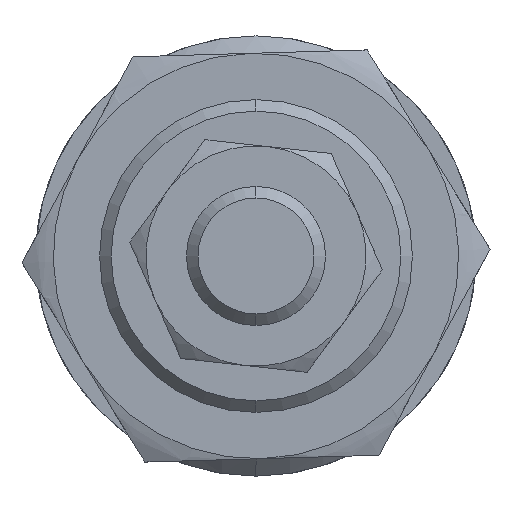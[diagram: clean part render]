
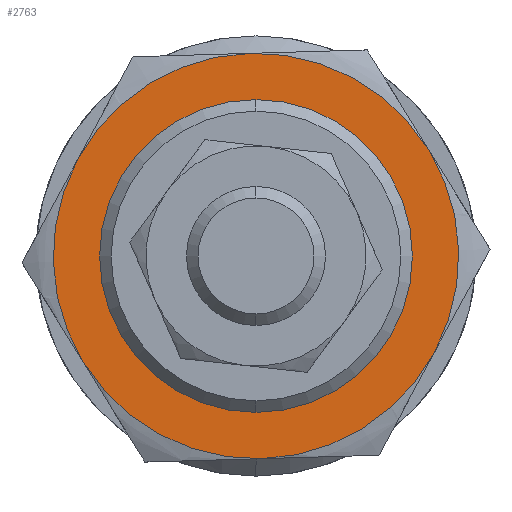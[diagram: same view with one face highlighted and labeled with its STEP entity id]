
A CAD part, left-side view. The second image highlights one B-rep face of the part: STEP entity #2763.
In plain terms, the highlighted planar face has unit normal (-1, 0, 0) as drawn and (0, 0, -1) by its records, which use the part's own axes.
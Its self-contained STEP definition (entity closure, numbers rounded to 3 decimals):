
#18 = EDGE_CURVE ( 'NONE', #146, #3362, #1792, .T. ) ;
#19 = CARTESIAN_POINT ( 'NONE',  ( 8.75, -15.155, -5. ) ) ;
#96 = ORIENTED_EDGE ( 'NONE', *, *, #2639, .F. ) ;
#99 = EDGE_LOOP ( 'NONE', ( #968, #428 ) ) ;
#127 = CIRCLE ( 'NONE', #1578, 17.5 ) ;
#139 = AXIS2_PLACEMENT_3D ( 'NONE', #2171, #854, #2798 ) ;
#146 = VERTEX_POINT ( 'NONE', #908 ) ;
#154 = VERTEX_POINT ( 'NONE', #2090 ) ;
#217 = DIRECTION ( 'NONE',  ( 1., 0., 0. ) ) ;
#291 = DIRECTION ( 'NONE',  ( 1., 0., 0. ) ) ;
#428 = ORIENTED_EDGE ( 'NONE', *, *, #2985, .T. ) ;
#555 = FACE_OUTER_BOUND ( 'NONE', #1367, .T. ) ;
#591 = DIRECTION ( 'NONE',  ( 0., 0., 1. ) ) ;
#852 = CARTESIAN_POINT ( 'NONE',  ( 0., 0., -5. ) ) ;
#854 = DIRECTION ( 'NONE',  ( 0., 0., 1. ) ) ;
#860 = CIRCLE ( 'NONE', #3890, 12.5 ) ;
#908 = CARTESIAN_POINT ( 'NONE',  ( 12.5, 0., -5. ) ) ;
#927 = DIRECTION ( 'NONE',  ( 0., 0., 1. ) ) ;
#933 = AXIS2_PLACEMENT_3D ( 'NONE', #3758, #2012, #217 ) ;
#963 = EDGE_CURVE ( 'NONE', #2978, #1176, #1855, .T. ) ;
#966 = AXIS2_PLACEMENT_3D ( 'NONE', #3493, #3986, #4494 ) ;
#968 = ORIENTED_EDGE ( 'NONE', *, *, #18, .T. ) ;
#983 = EDGE_CURVE ( 'NONE', #154, #2978, #127, .T. ) ;
#990 = CARTESIAN_POINT ( 'NONE',  ( 8.75, 15.155, -5. ) ) ;
#1176 = VERTEX_POINT ( 'NONE', #4684 ) ;
#1271 = DIRECTION ( 'NONE',  ( 1., 0., 0. ) ) ;
#1367 = EDGE_LOOP ( 'NONE', ( #3649, #96, #3230, #2852, #3667, #2040 ) ) ;
#1578 = AXIS2_PLACEMENT_3D ( 'NONE', #2457, #591, #4013 ) ;
#1629 = DIRECTION ( 'NONE',  ( 0., 0., 1. ) ) ;
#1716 = FACE_BOUND ( 'NONE', #99, .T. ) ;
#1786 = AXIS2_PLACEMENT_3D ( 'NONE', #2613, #3358, #1271 ) ;
#1792 = CIRCLE ( 'NONE', #933, 12.5 ) ;
#1827 = VERTEX_POINT ( 'NONE', #19 ) ;
#1855 = CIRCLE ( 'NONE', #1786, 17.5 ) ;
#1888 = EDGE_CURVE ( 'NONE', #2596, #1827, #4553, .T. ) ;
#2012 = DIRECTION ( 'NONE',  ( 0., 0., 1. ) ) ;
#2040 = ORIENTED_EDGE ( 'NONE', *, *, #963, .F. ) ;
#2090 = CARTESIAN_POINT ( 'NONE',  ( 17.5, 0., -5. ) ) ;
#2160 = CIRCLE ( 'NONE', #139, 17.5 ) ;
#2171 = CARTESIAN_POINT ( 'NONE',  ( 0., 0., -5. ) ) ;
#2252 = CIRCLE ( 'NONE', #2759, 17.5 ) ;
#2278 = DIRECTION ( 'NONE',  ( 0., 0., 1. ) ) ;
#2338 = DIRECTION ( 'NONE',  ( 1., 0., 0. ) ) ;
#2388 = EDGE_CURVE ( 'NONE', #3949, #2596, #2425, .T. ) ;
#2425 = CIRCLE ( 'NONE', #3755, 17.5 ) ;
#2457 = CARTESIAN_POINT ( 'NONE',  ( 0., 0., -5. ) ) ;
#2596 = VERTEX_POINT ( 'NONE', #4103 ) ;
#2613 = CARTESIAN_POINT ( 'NONE',  ( 0., 0., -5. ) ) ;
#2630 = CARTESIAN_POINT ( 'NONE',  ( -12.5, 0., -5. ) ) ;
#2639 = EDGE_CURVE ( 'NONE', #1827, #154, #2252, .T. ) ;
#2759 = AXIS2_PLACEMENT_3D ( 'NONE', #3704, #1629, #2338 ) ;
#2763 = ADVANCED_FACE ( 'NONE', ( #1716, #555 ), #3111, .F. ) ;
#2798 = DIRECTION ( 'NONE',  ( 1., 0., 0. ) ) ;
#2852 = ORIENTED_EDGE ( 'NONE', *, *, #2388, .F. ) ;
#2932 = EDGE_CURVE ( 'NONE', #1176, #3949, #2160, .T. ) ;
#2978 = VERTEX_POINT ( 'NONE', #990 ) ;
#2985 = EDGE_CURVE ( 'NONE', #3362, #146, #860, .T. ) ;
#3111 = PLANE ( 'NONE',  #966 ) ;
#3169 = CARTESIAN_POINT ( 'NONE',  ( 0., 0., -5. ) ) ;
#3230 = ORIENTED_EDGE ( 'NONE', *, *, #1888, .F. ) ;
#3358 = DIRECTION ( 'NONE',  ( 0., 0., 1. ) ) ;
#3362 = VERTEX_POINT ( 'NONE', #2630 ) ;
#3447 = CARTESIAN_POINT ( 'NONE',  ( -17.5, 0., -5. ) ) ;
#3493 = CARTESIAN_POINT ( 'NONE',  ( 0., 0., -5. ) ) ;
#3649 = ORIENTED_EDGE ( 'NONE', *, *, #983, .F. ) ;
#3667 = ORIENTED_EDGE ( 'NONE', *, *, #2932, .F. ) ;
#3691 = DIRECTION ( 'NONE',  ( 1., 0., 0. ) ) ;
#3704 = CARTESIAN_POINT ( 'NONE',  ( 0., 0., -5. ) ) ;
#3755 = AXIS2_PLACEMENT_3D ( 'NONE', #852, #927, #291 ) ;
#3758 = CARTESIAN_POINT ( 'NONE',  ( 0., 0., -5. ) ) ;
#3890 = AXIS2_PLACEMENT_3D ( 'NONE', #3169, #3898, #3691 ) ;
#3898 = DIRECTION ( 'NONE',  ( 0., 0., 1. ) ) ;
#3932 = DIRECTION ( 'NONE',  ( 1., 0., 0. ) ) ;
#3949 = VERTEX_POINT ( 'NONE', #3447 ) ;
#3986 = DIRECTION ( 'NONE',  ( 0., 0., 1. ) ) ;
#4013 = DIRECTION ( 'NONE',  ( 1., 0., 0. ) ) ;
#4103 = CARTESIAN_POINT ( 'NONE',  ( -8.75, -15.155, -5. ) ) ;
#4200 = CARTESIAN_POINT ( 'NONE',  ( 0., 0., -5. ) ) ;
#4494 = DIRECTION ( 'NONE',  ( 1., 0., 0. ) ) ;
#4553 = CIRCLE ( 'NONE', #4626, 17.5 ) ;
#4626 = AXIS2_PLACEMENT_3D ( 'NONE', #4200, #2278, #3932 ) ;
#4684 = CARTESIAN_POINT ( 'NONE',  ( -8.75, 15.155, -5. ) ) ;
